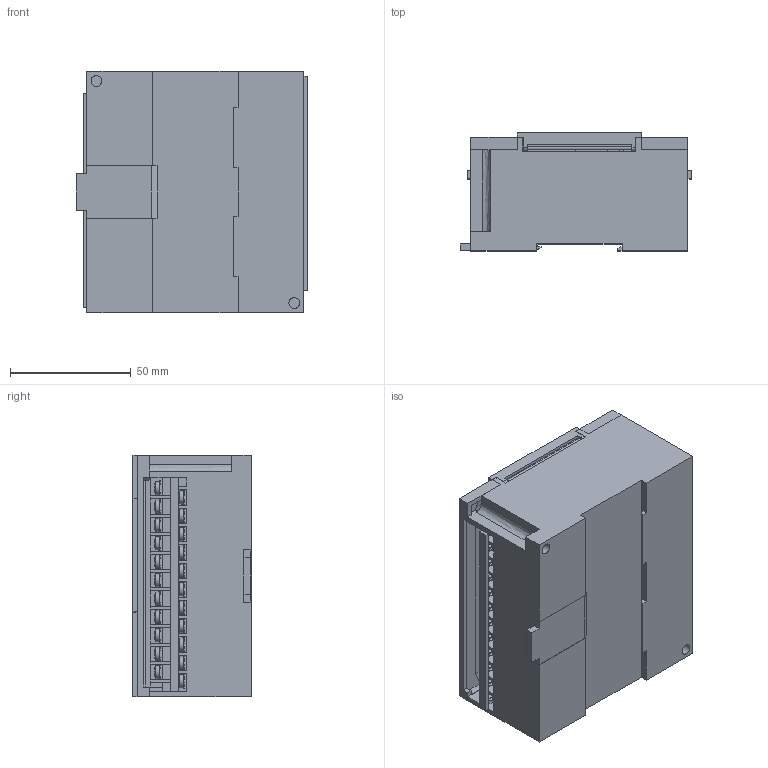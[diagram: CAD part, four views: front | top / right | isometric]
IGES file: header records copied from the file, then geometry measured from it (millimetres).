
Global section: file name: J:\710_sanki\WEB\3DC-0017_FX3S\fx3s-30mr_ds\fx3s-30mr_ds_a.igs; preprocessor: I-DEAS 3D IGES Translator 15; date: 20141128.160820; units: millimetre
Bounding box: 95.8 x 49 x 100 mm (x, y, z)
Volume: 364314.5 mm3; surface area: 69841.4 mm2
Topology: 8 solids, 8 shells, 926 faces, 2761 edges, 1896 vertices
Faces by surface type: bspline 926
